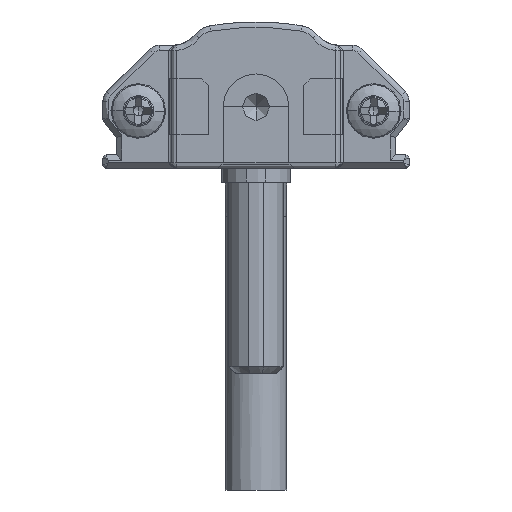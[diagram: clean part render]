
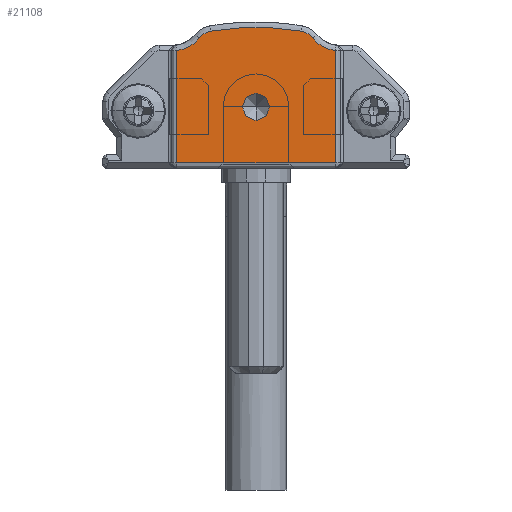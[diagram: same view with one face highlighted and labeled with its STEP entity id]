
A CAD part, front view. The second image highlights one B-rep face of the part: STEP entity #21108.
In plain terms, the highlighted planar face has unit normal (0, -1, 0).
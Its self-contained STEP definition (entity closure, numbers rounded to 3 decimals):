
#337 = ORIENTED_EDGE ( 'NONE', *, *, #27737, .T. ) ;
#508 = CIRCLE ( 'NONE', #1630, 2.4 ) ;
#809 = CARTESIAN_POINT ( 'NONE',  ( 5.4, -15., 0.4 ) ) ;
#1562 = CARTESIAN_POINT ( 'NONE',  ( 7.068, -15., 9.541 ) ) ;
#1630 = AXIS2_PLACEMENT_3D ( 'NONE', #19210, #24446, #6451 ) ;
#2106 = VERTEX_POINT ( 'NONE', #28880 ) ;
#2139 = ORIENTED_EDGE ( 'NONE', *, *, #3530, .T. ) ;
#2675 = VERTEX_POINT ( 'NONE', #28128 ) ;
#3162 = AXIS2_PLACEMENT_3D ( 'NONE', #13505, #23712, #5538 ) ;
#3317 = DIRECTION ( 'NONE',  ( 0., 0., -1. ) ) ;
#3347 = CARTESIAN_POINT ( 'NONE',  ( 5.4, -15., 0.4 ) ) ;
#3530 = EDGE_CURVE ( 'NONE', #21867, #32964, #15195, .T. ) ;
#3860 = CARTESIAN_POINT ( 'NONE',  ( 14.3, -15., 8.75 ) ) ;
#4291 = ORIENTED_EDGE ( 'NONE', *, *, #4957, .F. ) ;
#4740 = EDGE_CURVE ( 'NONE', #20954, #22618, #31923, .T. ) ;
#4957 = EDGE_CURVE ( 'NONE', #2675, #26253, #27573, .T. ) ;
#5527 = DIRECTION ( 'NONE',  ( 0., 0., -1. ) ) ;
#5538 = DIRECTION ( 'NONE',  ( 0., 0., -1. ) ) ;
#5640 = VERTEX_POINT ( 'NONE', #31462 ) ;
#6067 = ORIENTED_EDGE ( 'NONE', *, *, #20382, .F. ) ;
#6275 = ORIENTED_EDGE ( 'NONE', *, *, #4740, .T. ) ;
#6451 = DIRECTION ( 'NONE',  ( 0., 0., -1. ) ) ;
#6483 = ORIENTED_EDGE ( 'NONE', *, *, #15281, .T. ) ;
#7482 = CIRCLE ( 'NONE', #29025, 2.4 ) ;
#9659 = VECTOR ( 'NONE', #18830, 1000. ) ;
#9704 = EDGE_CURVE ( 'NONE', #5640, #21867, #23715, .T. ) ;
#10823 = VERTEX_POINT ( 'NONE', #16337 ) ;
#11086 = CARTESIAN_POINT ( 'NONE',  ( 11.2, -15., -10.376 ) ) ;
#11387 = EDGE_CURVE ( 'NONE', #32964, #26196, #16220, .T. ) ;
#11545 = ORIENTED_EDGE ( 'NONE', *, *, #11387, .T. ) ;
#12495 = FACE_BOUND ( 'NONE', #17784, .T. ) ;
#13505 = CARTESIAN_POINT ( 'NONE',  ( 22.15, -15., 3.606 ) ) ;
#13678 = CARTESIAN_POINT ( 'NONE',  ( 17.238, -15., 11. ) ) ;
#14181 = DIRECTION ( 'NONE',  ( 0., -1., 0. ) ) ;
#15195 = LINE ( 'NONE', #28498, #33395 ) ;
#15281 = EDGE_CURVE ( 'NONE', #10823, #2106, #26486, .T. ) ;
#15742 = AXIS2_PLACEMENT_3D ( 'NONE', #30973, #20440, #33027 ) ;
#16076 = AXIS2_PLACEMENT_3D ( 'NONE', #31285, #27596, #27749 ) ;
#16220 = LINE ( 'NONE', #18532, #29183 ) ;
#16337 = CARTESIAN_POINT ( 'NONE',  ( 15.332, -15., 9.541 ) ) ;
#17000 = CARTESIAN_POINT ( 'NONE',  ( 11.2, -15., 5.5 ) ) ;
#17784 = EDGE_LOOP ( 'NONE', ( #4291, #6067 ) ) ;
#18027 = ORIENTED_EDGE ( 'NONE', *, *, #9704, .T. ) ;
#18532 = CARTESIAN_POINT ( 'NONE',  ( 17., -15., 8.612 ) ) ;
#18830 = DIRECTION ( 'NONE',  ( 0., 0., -1. ) ) ;
#19009 = CARTESIAN_POINT ( 'NONE',  ( 17., -15., 8.612 ) ) ;
#19210 = CARTESIAN_POINT ( 'NONE',  ( 5.162, -15., 11. ) ) ;
#20382 = EDGE_CURVE ( 'NONE', #26253, #2675, #24080, .T. ) ;
#20440 = DIRECTION ( 'NONE',  ( 0., -1., 0. ) ) ;
#20544 = ORIENTED_EDGE ( 'NONE', *, *, #26223, .T. ) ;
#20746 = EDGE_LOOP ( 'NONE', ( #11545, #20544, #6483, #32544, #6275, #337, #18027, #2139 ) ) ;
#20954 = VERTEX_POINT ( 'NONE', #32238 ) ;
#21108 = ADVANCED_FACE ( 'NONE', ( #33079, #12495 ), #30876, .T. ) ;
#21517 = DIRECTION ( 'NONE',  ( 0., 1., 0. ) ) ;
#21602 = AXIS2_PLACEMENT_3D ( 'NONE', #31365, #31179, #5527 ) ;
#21867 = VERTEX_POINT ( 'NONE', #3347 ) ;
#22618 = VERTEX_POINT ( 'NONE', #1562 ) ;
#23712 = DIRECTION ( 'NONE',  ( 0., -1., 0. ) ) ;
#23715 = LINE ( 'NONE', #809, #9659 ) ;
#24080 = CIRCLE ( 'NONE', #16076, 1. ) ;
#24232 = DIRECTION ( 'NONE',  ( 0., 0., -1. ) ) ;
#24399 = DIRECTION ( 'NONE',  ( 0., 0., -1. ) ) ;
#24446 = DIRECTION ( 'NONE',  ( 0., 1., 0. ) ) ;
#24454 = CARTESIAN_POINT ( 'NONE',  ( 17., -15., 0.4 ) ) ;
#25398 = AXIS2_PLACEMENT_3D ( 'NONE', #3860, #14181, #24399 ) ;
#26196 = VERTEX_POINT ( 'NONE', #19009 ) ;
#26223 = EDGE_CURVE ( 'NONE', #26196, #10823, #7482, .T. ) ;
#26253 = VERTEX_POINT ( 'NONE', #17000 ) ;
#26486 = CIRCLE ( 'NONE', #25398, 1.3 ) ;
#27481 = EDGE_CURVE ( 'NONE', #2106, #20954, #30694, .T. ) ;
#27573 = CIRCLE ( 'NONE', #15742, 1. ) ;
#27596 = DIRECTION ( 'NONE',  ( 0., -1., 0. ) ) ;
#27737 = EDGE_CURVE ( 'NONE', #22618, #5640, #508, .T. ) ;
#27749 = DIRECTION ( 'NONE',  ( 0., 0., -1. ) ) ;
#28128 = CARTESIAN_POINT ( 'NONE',  ( 11.2, -15., 3.5 ) ) ;
#28498 = CARTESIAN_POINT ( 'NONE',  ( 17., -15., 0.4 ) ) ;
#28880 = CARTESIAN_POINT ( 'NONE',  ( 14.508, -15., 10.034 ) ) ;
#28967 = DIRECTION ( 'NONE',  ( 0., -1., 0. ) ) ;
#29025 = AXIS2_PLACEMENT_3D ( 'NONE', #13678, #21517, #24232 ) ;
#29183 = VECTOR ( 'NONE', #31238, 1000. ) ;
#30694 = CIRCLE ( 'NONE', #31779, 20.676 ) ;
#30876 = PLANE ( 'NONE',  #3162 ) ;
#30973 = CARTESIAN_POINT ( 'NONE',  ( 11.2, -15., 4.5 ) ) ;
#31179 = DIRECTION ( 'NONE',  ( 0., -1., 0. ) ) ;
#31238 = DIRECTION ( 'NONE',  ( 0., 0., 1. ) ) ;
#31285 = CARTESIAN_POINT ( 'NONE',  ( 11.2, -15., 4.5 ) ) ;
#31365 = CARTESIAN_POINT ( 'NONE',  ( 8.1, -15., 8.75 ) ) ;
#31462 = CARTESIAN_POINT ( 'NONE',  ( 5.4, -15., 8.612 ) ) ;
#31779 = AXIS2_PLACEMENT_3D ( 'NONE', #11086, #28967, #3317 ) ;
#31923 = CIRCLE ( 'NONE', #21602, 1.3 ) ;
#32238 = CARTESIAN_POINT ( 'NONE',  ( 7.892, -15., 10.034 ) ) ;
#32544 = ORIENTED_EDGE ( 'NONE', *, *, #27481, .T. ) ;
#32929 = DIRECTION ( 'NONE',  ( 1., 0., 0. ) ) ;
#32964 = VERTEX_POINT ( 'NONE', #24454 ) ;
#33027 = DIRECTION ( 'NONE',  ( 0., 0., -1. ) ) ;
#33079 = FACE_OUTER_BOUND ( 'NONE', #20746, .T. ) ;
#33395 = VECTOR ( 'NONE', #32929, 1000. ) ;
